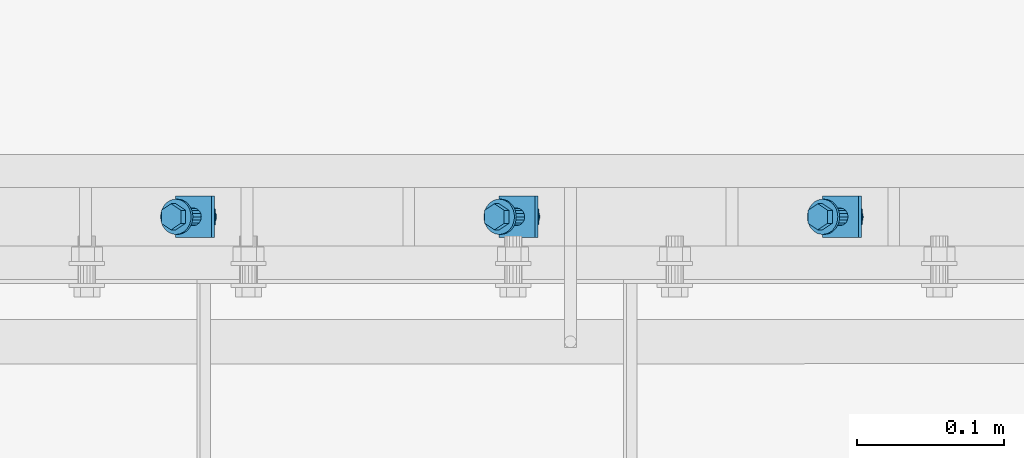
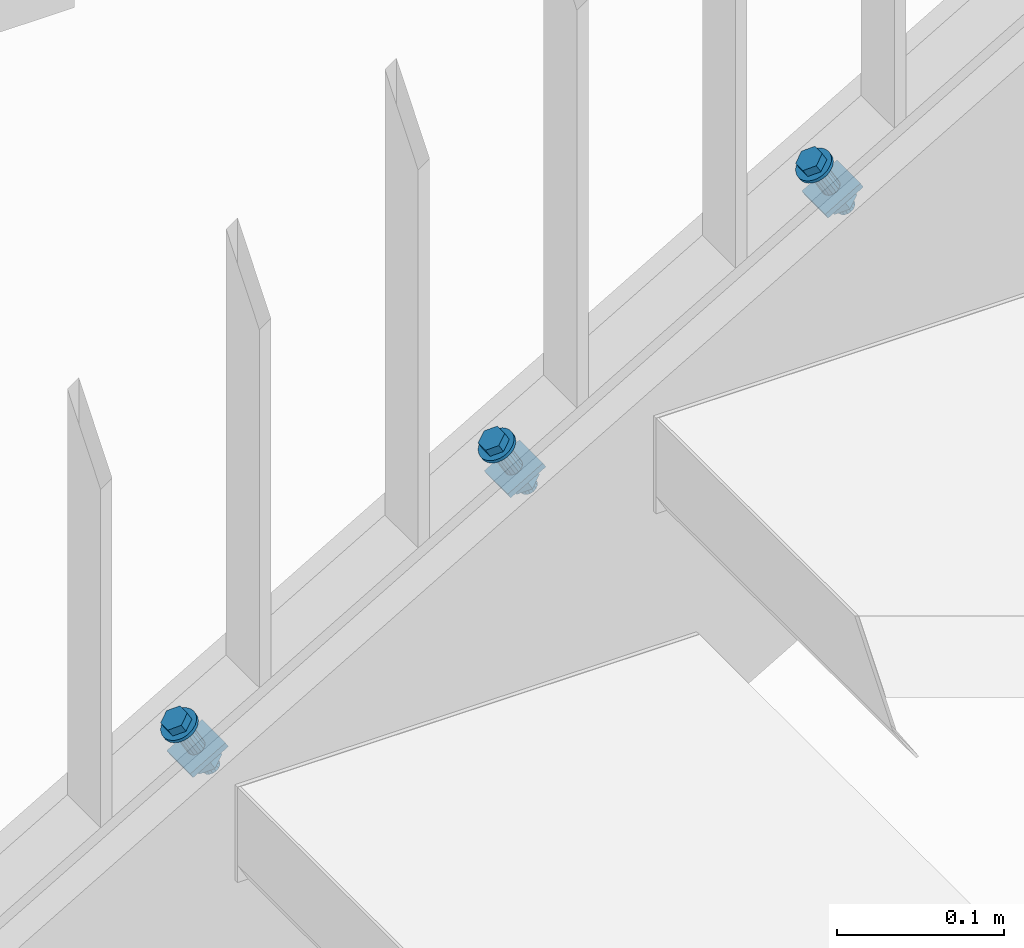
# One storey, part 82 of 145: 3 mechanical fasteners.
"""IFC2X3 building model written with IfcOpenShell, lengths in millimetres."""

from ifc_helpers import new_model, entity, si_unit, converted_unit, origin_with_axes, place, context, project, spatial, faceted_brep, element, save


model = new_model("IFC2X3")

# Units and contexts
model_context = context("Model", 3, precision=1e-09, world=origin_with_axes())
ifc_project = project(units=[si_unit("LENGTHUNIT", "METRE", prefix="MILLI"), si_unit("AREAUNIT", "SQUARE_METRE"), si_unit("VOLUMEUNIT", "CUBIC_METRE"), converted_unit("PLANEANGLEUNIT", "DEGREE", entity("IfcPlaneAngleMeasure", 0.01745329), si_unit("PLANEANGLEUNIT", "RADIAN"), dimensions=[0, 0, 0, 0, 0, 0, 0])], contexts=[model_context])

# Site, building, storey
site_placement = place(None, origin_with_axes())
site = spatial("IfcSite", under=ifc_project, at=site_placement, Name="BZ1 Grund- und Mittelschule 85716 Unterschlei?heim", CompositionType="ELEMENT")
building_placement = place(site_placement, origin_with_axes())
building = spatial("IfcBuilding", under=site, at=building_placement, Name="Struktur 1", CompositionType="ELEMENT")
storey_placement = place(building_placement, origin_with_axes())
storey = spatial("IfcBuildingStorey", under=building, at=storey_placement, Name="Default Storey", CompositionType="ELEMENT", Elevation=0.0)

# Mechanical fasteners
mechanical_fastener_1_placement = place(None, origin_with_axes())
element("IfcMechanicalFastener", 1, at=mechanical_fastener_1_placement, inside=storey, ObjectType="-", NominalDiameter=12.0, NominalLength=45.0, context=model_context, shape_type="Brep", body=[
    faceted_brep([(17800.950000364, -1877.502, 398.715250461), (17799.693272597, -1877.502, 400.87641573), (17799.892598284, -1875.160916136, 400.992324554), (17801.14932605, -1875.160916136, 398.831159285), (17800.482915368, -1872.909798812, 401.335596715), (17801.739643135, -1872.909798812, 399.174431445), (17801.441538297, -1870.835157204, 401.893040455), (17802.698266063, -1870.835157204, 399.731875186), (17802.731627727, -1869.016718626, 402.643233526), (17803.988355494, -1869.016718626, 400.482068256), (17804.303606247, -1867.524364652, 403.557346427), (17805.560334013, -1867.524364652, 401.396181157), (17806.097063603, -1866.41544561, 404.600250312), (17807.353791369, -1866.41544561, 402.439085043), (17808.043078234, -1865.732576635, 405.731866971), (17809.299806, -1865.732576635, 403.570701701), (17810.06686589, -1865.502, 406.908709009), (17811.323593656, -1865.502, 404.74754374), (17812.090653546, -1865.732576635, 408.085551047), (17813.347381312, -1865.732576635, 405.924385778), (17814.036668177, -1866.41544561, 409.217167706), (17815.293395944, -1866.41544561, 407.056002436), (17815.830125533, -1867.524364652, 410.260071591), (17817.086853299, -1867.524364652, 408.098906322), (17817.402104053, -1869.016718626, 411.174184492), (17818.658831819, -1869.016718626, 409.013019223), (17818.692193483, -1870.835157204, 411.924377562), (17819.94892125, -1870.835157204, 409.763212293), (17819.650816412, -1872.909798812, 412.481821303), (17820.907544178, -1872.909798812, 410.320656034), (17820.241133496, -1875.160916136, 412.825093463), (17821.497861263, -1875.160916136, 410.663928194), (17820.440459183, -1877.502, 412.941002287), (17821.697186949, -1877.502, 410.779837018), (17820.241133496, -1879.843083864, 412.825093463), (17821.497861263, -1879.843083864, 410.663928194), (17819.650816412, -1882.094201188, 412.481821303), (17820.907544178, -1882.094201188, 410.320656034), (17818.692193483, -1884.168842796, 411.924377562), (17819.94892125, -1884.168842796, 409.763212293), (17817.402104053, -1885.987281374, 411.174184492), (17818.658831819, -1885.987281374, 409.013019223), (17815.830125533, -1887.479635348, 410.260071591), (17817.086853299, -1887.479635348, 408.098906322), (17814.036668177, -1888.58855439, 409.217167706), (17815.293395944, -1888.58855439, 407.056002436), (17812.090653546, -1889.271423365, 408.085551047), (17813.347381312, -1889.271423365, 405.924385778), (17810.06686589, -1889.502, 406.908709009), (17811.323593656, -1889.502, 404.74754374), (17808.043078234, -1889.271423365, 405.731866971), (17809.299806, -1889.271423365, 403.570701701), (17806.097063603, -1888.58855439, 404.600250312), (17807.353791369, -1888.58855439, 402.439085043), (17804.303606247, -1887.479635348, 403.557346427), (17805.560334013, -1887.479635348, 401.396181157), (17802.731627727, -1885.987281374, 402.643233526), (17803.988355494, -1885.987281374, 400.482068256), (17801.441538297, -1884.168842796, 401.893040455), (17802.698266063, -1884.168842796, 399.731875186), (17800.482915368, -1882.094201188, 401.335596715), (17801.739643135, -1882.094201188, 399.174431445), (17799.892598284, -1879.843083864, 400.992324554), (17801.14932605, -1879.843083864, 398.831159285)], [[[0, 1, 2, 3]], [[3, 2, 4, 5]], [[5, 4, 6, 7]], [[7, 6, 8, 9]], [[9, 8, 10, 11]], [[11, 10, 12, 13]], [[13, 12, 14, 15]], [[15, 14, 16, 17]], [[17, 16, 18, 19]], [[19, 18, 20, 21]], [[21, 20, 22, 23]], [[23, 22, 24, 25]], [[25, 24, 26, 27]], [[27, 26, 28, 29]], [[29, 28, 30, 31]], [[31, 30, 32, 33]], [[33, 32, 34, 35]], [[35, 34, 36, 37]], [[37, 36, 38, 39]], [[39, 38, 40, 41]], [[41, 40, 42, 43]], [[43, 42, 44, 45]], [[45, 44, 46, 47]], [[47, 46, 48, 49]], [[49, 48, 50, 51]], [[51, 50, 52, 53]], [[53, 52, 54, 55]], [[55, 54, 56, 57]], [[57, 56, 58, 59]], [[59, 58, 60, 61]], [[61, 60, 62, 63]], [[63, 62, 1, 0]], [[2, 1, 62, 60, 58, 56, 54, 52, 50, 48, 46, 44, 42, 40, 38, 36, 34, 32, 30, 28, 26, 24, 22, 20, 18, 16, 14, 12, 10, 8, 6, 4]], [[63, 0, 3, 5, 7, 9, 11, 13, 15, 17, 19, 21, 23, 25, 27, 29, 31, 33, 35, 37, 39, 41, 43, 45, 47, 49, 51, 53, 55, 57, 59, 61]]]),
    faceted_brep([(17813.501394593, -1873.0595, 416.309317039), (17816.718617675, -1873.0595, 410.77673395), (17810.06686589, -1868.617, 406.908709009), (17806.849642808, -1868.617, 412.441292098), (17803.415114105, -1873.0595, 403.040684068), (17800.197891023, -1873.0595, 408.573267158), (17803.415114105, -1881.9445, 403.040684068), (17800.197891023, -1881.9445, 408.573267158), (17810.06686589, -1886.387, 406.908709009), (17806.849642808, -1886.387, 412.441292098), (17816.718617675, -1881.9445, 410.77673395), (17813.501394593, -1881.9445, 416.309317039)], [[[0, 1, 2, 3]], [[3, 2, 4, 5]], [[5, 4, 6, 7]], [[7, 6, 8, 9]], [[9, 8, 10, 11]], [[11, 10, 1, 0]], [[3, 5, 7, 9, 11, 0]], [[2, 1, 10, 8, 6, 4]]]),
    faceted_brep([(17817.036558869, -1877.502, 382.987332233), (17806.13679701, -1877.502, 401.7313971), (17806.531618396, -1875.205899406, 401.960987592), (17817.431380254, -1875.205899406, 383.216922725), (17807.655974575, -1873.259359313, 402.614805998), (17818.555736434, -1873.259359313, 383.87074113), (17809.338692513, -1871.958722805, 403.593314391), (17820.238454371, -1871.958722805, 384.849249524), (17811.323593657, -1871.502, 404.747543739), (17822.223355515, -1871.502, 386.003478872), (17813.3084948, -1871.958722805, 405.901773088), (17824.208256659, -1871.958722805, 387.15770822), (17814.991212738, -1873.259359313, 406.880281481), (17825.890974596, -1873.259359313, 388.136216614), (17816.115568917, -1875.205899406, 407.534099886), (17827.015330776, -1875.205899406, 388.790035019), (17816.510390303, -1877.502, 407.763690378), (17827.410152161, -1877.502, 389.019625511), (17816.115568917, -1879.798100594, 407.534099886), (17827.015330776, -1879.798100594, 388.790035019), (17814.991212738, -1881.744640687, 406.880281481), (17825.890974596, -1881.744640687, 388.136216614), (17813.3084948, -1883.045277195, 405.901773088), (17824.208256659, -1883.045277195, 387.15770822), (17811.323593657, -1883.502, 404.747543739), (17822.223355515, -1883.502, 386.003478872), (17809.338692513, -1883.045277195, 403.593314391), (17820.238454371, -1883.045277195, 384.849249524), (17807.655974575, -1881.744640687, 402.614805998), (17818.555736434, -1881.744640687, 383.87074113), (17806.531618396, -1879.798100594, 401.960987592), (17817.431380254, -1879.798100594, 383.216922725)], [[[0, 1, 2, 3]], [[3, 2, 4, 5]], [[5, 4, 6, 7]], [[7, 6, 8, 9]], [[9, 8, 10, 11]], [[11, 10, 12, 13]], [[13, 12, 14, 15]], [[15, 14, 16, 17]], [[17, 16, 18, 19]], [[19, 18, 20, 21]], [[21, 20, 22, 23]], [[23, 22, 24, 25]], [[25, 24, 26, 27]], [[27, 26, 28, 29]], [[29, 28, 30, 31]], [[31, 30, 1, 0]], [[2, 1, 30, 28, 26, 24, 22, 20, 18, 16, 14, 12, 10, 8, 6, 4]], [[31, 0, 3, 5, 7, 9, 11, 13, 15, 17, 19, 21, 23, 25, 27, 29]]]),
    faceted_brep([(17834.448752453, -1863.359864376, 393.112604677), (17836.459516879, -1863.359864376, 389.654740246), (17812.008723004, -1863.359864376, 375.436488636), (17809.997958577, -1863.359864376, 378.894353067), (17812.008723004, -1891.644135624, 375.436488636), (17809.997958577, -1891.644135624, 378.894353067), (17836.459516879, -1891.644135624, 389.654740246), (17834.448752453, -1891.644135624, 393.112604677)], [[[0, 1, 2, 3]], [[3, 2, 4, 5]], [[5, 4, 6, 7]], [[7, 6, 1, 0]], [[3, 5, 7, 0]], [[2, 1, 6, 4]]]),
    faceted_brep([(17832.132373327, -1872.227, 387.138485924), (17837.159284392, -1872.227, 378.493824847), (17829.261031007, -1866.952, 373.900953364), (17824.234119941, -1866.952, 382.545614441), (17821.362777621, -1872.227, 369.308081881), (17816.335866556, -1872.227, 377.952742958), (17821.362777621, -1882.777, 369.308081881), (17816.335866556, -1882.777, 377.952742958), (17829.261031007, -1888.052, 373.900953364), (17824.234119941, -1888.052, 382.545614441), (17837.159284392, -1882.777, 378.493824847), (17832.132373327, -1882.777, 387.138485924)], [[[0, 1, 2, 3]], [[3, 2, 4, 5]], [[5, 4, 6, 7]], [[7, 6, 8, 9]], [[9, 8, 10, 11]], [[11, 10, 1, 0]], [[3, 5, 7, 9, 11, 0]], [[2, 1, 10, 8, 6, 4]]]),
    faceted_brep([(17827.501169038, -1877.502, 364.991587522), (17824.07423436, -1877.502, 370.884806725), (17824.469055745, -1875.205899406, 371.114397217), (17827.895990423, -1875.205899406, 365.221178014), (17825.593411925, -1873.259359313, 371.768215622), (17829.020346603, -1873.259359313, 365.874996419), (17827.276129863, -1871.958722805, 372.746724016), (17830.70306454, -1871.958722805, 366.853504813), (17829.261031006, -1871.502, 373.900953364), (17832.687965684, -1871.502, 368.007734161), (17831.24593215, -1871.958722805, 375.055182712), (17834.672866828, -1871.958722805, 369.161963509), (17832.928650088, -1873.259359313, 376.033691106), (17836.355584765, -1873.259359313, 370.140471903), (17834.053006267, -1875.205899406, 376.687509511), (17837.479940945, -1875.205899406, 370.794290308), (17834.447827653, -1877.502, 376.917100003), (17837.87476233, -1877.502, 371.0238808), (17834.053006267, -1879.798100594, 376.687509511), (17837.479940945, -1879.798100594, 370.794290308), (17832.928650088, -1881.744640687, 376.033691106), (17836.355584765, -1881.744640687, 370.140471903), (17831.24593215, -1883.045277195, 375.055182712), (17834.672866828, -1883.045277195, 369.161963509), (17829.261031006, -1883.502, 373.900953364), (17832.687965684, -1883.502, 368.007734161), (17827.276129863, -1883.045277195, 372.746724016), (17830.70306454, -1883.045277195, 366.853504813), (17825.593411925, -1881.744640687, 371.768215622), (17829.020346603, -1881.744640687, 365.874996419), (17824.469055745, -1879.798100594, 371.114397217), (17827.895990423, -1879.798100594, 365.221178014)], [[[0, 1, 2, 3]], [[3, 2, 4, 5]], [[5, 4, 6, 7]], [[7, 6, 8, 9]], [[9, 8, 10, 11]], [[11, 10, 12, 13]], [[13, 12, 14, 15]], [[15, 14, 16, 17]], [[17, 16, 18, 19]], [[19, 18, 20, 21]], [[21, 20, 22, 23]], [[23, 22, 24, 25]], [[25, 24, 26, 27]], [[27, 26, 28, 29]], [[29, 28, 30, 31]], [[31, 30, 1, 0]], [[2, 1, 30, 28, 26, 24, 22, 20, 18, 16, 14, 12, 10, 8, 6, 4]], [[31, 0, 3, 5, 7, 9, 11, 13, 15, 17, 19, 21, 23, 25, 27, 29]]]),
])
mechanical_fastener_2_placement = place(None, origin_with_axes())
element("IfcMechanicalFastener", 2, at=mechanical_fastener_2_placement, inside=storey, ObjectType="-", NominalDiameter=12.0, NominalLength=45.0, context=model_context, shape_type="Brep", body=[
    faceted_brep([(18020.950503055, -1877.502, 526.646577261), (18019.693775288, -1877.502, 528.80774253), (18019.893100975, -1875.160916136, 528.923651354), (18021.149828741, -1875.160916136, 526.762486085), (18020.483418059, -1872.909798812, 529.266923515), (18021.740145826, -1872.909798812, 527.105758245), (18021.442040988, -1870.835157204, 529.824367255), (18022.698768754, -1870.835157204, 527.663201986), (18022.732130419, -1869.016718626, 530.574560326), (18023.988858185, -1869.016718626, 528.413395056), (18024.304108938, -1867.524364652, 531.488673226), (18025.560836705, -1867.524364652, 529.327507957), (18026.097566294, -1866.41544561, 532.531577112), (18027.35429406, -1866.41544561, 530.370411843), (18028.043580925, -1865.732576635, 533.663193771), (18029.300308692, -1865.732576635, 531.502028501), (18030.067368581, -1865.502, 534.840035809), (18031.324096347, -1865.502, 532.678870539), (18032.091156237, -1865.732576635, 536.016877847), (18033.347884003, -1865.732576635, 533.855712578), (18034.037170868, -1866.41544561, 537.148494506), (18035.293898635, -1866.41544561, 534.987329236), (18035.830628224, -1867.524364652, 538.191398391), (18037.08735599, -1867.524364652, 536.030233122), (18037.402606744, -1869.016718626, 539.105511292), (18038.65933451, -1869.016718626, 536.944346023), (18038.692696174, -1870.835157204, 539.855704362), (18039.949423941, -1870.835157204, 537.694539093), (18039.651319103, -1872.909798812, 540.413148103), (18040.908046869, -1872.909798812, 538.251982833), (18040.241636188, -1875.160916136, 540.756420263), (18041.498363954, -1875.160916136, 538.595254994), (18040.440961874, -1877.502, 540.872329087), (18041.69768964, -1877.502, 538.711163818), (18040.241636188, -1879.843083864, 540.756420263), (18041.498363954, -1879.843083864, 538.595254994), (18039.651319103, -1882.094201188, 540.413148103), (18040.908046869, -1882.094201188, 538.251982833), (18038.692696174, -1884.168842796, 539.855704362), (18039.949423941, -1884.168842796, 537.694539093), (18037.402606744, -1885.987281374, 539.105511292), (18038.65933451, -1885.987281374, 536.944346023), (18035.830628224, -1887.479635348, 538.191398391), (18037.08735599, -1887.479635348, 536.030233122), (18034.037170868, -1888.58855439, 537.148494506), (18035.293898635, -1888.58855439, 534.987329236), (18032.091156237, -1889.271423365, 536.016877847), (18033.347884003, -1889.271423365, 533.855712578), (18030.067368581, -1889.502, 534.840035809), (18031.324096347, -1889.502, 532.678870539), (18028.043580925, -1889.271423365, 533.663193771), (18029.300308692, -1889.271423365, 531.502028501), (18026.097566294, -1888.58855439, 532.531577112), (18027.35429406, -1888.58855439, 530.370411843), (18024.304108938, -1887.479635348, 531.488673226), (18025.560836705, -1887.479635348, 529.327507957), (18022.732130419, -1885.987281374, 530.574560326), (18023.988858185, -1885.987281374, 528.413395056), (18021.442040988, -1884.168842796, 529.824367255), (18022.698768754, -1884.168842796, 527.663201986), (18020.483418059, -1882.094201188, 529.266923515), (18021.740145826, -1882.094201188, 527.105758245), (18019.893100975, -1879.843083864, 528.923651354), (18021.149828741, -1879.843083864, 526.762486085)], [[[0, 1, 2, 3]], [[3, 2, 4, 5]], [[5, 4, 6, 7]], [[7, 6, 8, 9]], [[9, 8, 10, 11]], [[11, 10, 12, 13]], [[13, 12, 14, 15]], [[15, 14, 16, 17]], [[17, 16, 18, 19]], [[19, 18, 20, 21]], [[21, 20, 22, 23]], [[23, 22, 24, 25]], [[25, 24, 26, 27]], [[27, 26, 28, 29]], [[29, 28, 30, 31]], [[31, 30, 32, 33]], [[33, 32, 34, 35]], [[35, 34, 36, 37]], [[37, 36, 38, 39]], [[39, 38, 40, 41]], [[41, 40, 42, 43]], [[43, 42, 44, 45]], [[45, 44, 46, 47]], [[47, 46, 48, 49]], [[49, 48, 50, 51]], [[51, 50, 52, 53]], [[53, 52, 54, 55]], [[55, 54, 56, 57]], [[57, 56, 58, 59]], [[59, 58, 60, 61]], [[61, 60, 62, 63]], [[63, 62, 1, 0]], [[2, 1, 62, 60, 58, 56, 54, 52, 50, 48, 46, 44, 42, 40, 38, 36, 34, 32, 30, 28, 26, 24, 22, 20, 18, 16, 14, 12, 10, 8, 6, 4]], [[63, 0, 3, 5, 7, 9, 11, 13, 15, 17, 19, 21, 23, 25, 27, 29, 31, 33, 35, 37, 39, 41, 43, 45, 47, 49, 51, 53, 55, 57, 59, 61]]]),
    faceted_brep([(18033.501897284, -1873.0595, 544.240643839), (18036.719120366, -1873.0595, 538.70806075), (18030.067368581, -1868.617, 534.840035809), (18026.850145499, -1868.617, 540.372618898), (18023.415616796, -1873.0595, 530.972010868), (18020.198393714, -1873.0595, 536.504593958), (18023.415616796, -1881.9445, 530.972010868), (18020.198393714, -1881.9445, 536.504593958), (18030.067368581, -1886.387, 534.840035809), (18026.850145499, -1886.387, 540.372618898), (18036.719120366, -1881.9445, 538.70806075), (18033.501897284, -1881.9445, 544.240643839)], [[[0, 1, 2, 3]], [[3, 2, 4, 5]], [[5, 4, 6, 7]], [[7, 6, 8, 9]], [[9, 8, 10, 11]], [[11, 10, 1, 0]], [[3, 5, 7, 9, 11, 0]], [[2, 1, 10, 8, 6, 4]]]),
    faceted_brep([(18037.03706156, -1877.502, 510.918659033), (18026.137299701, -1877.502, 529.6627239), (18026.532121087, -1875.205899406, 529.892314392), (18037.431882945, -1875.205899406, 511.148249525), (18027.656477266, -1873.259359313, 530.546132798), (18038.556239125, -1873.259359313, 511.80206793), (18029.339195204, -1871.958722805, 531.524641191), (18040.238957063, -1871.958722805, 512.780576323), (18031.324096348, -1871.502, 532.678870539), (18042.223858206, -1871.502, 513.934805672), (18033.308997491, -1871.958722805, 533.833099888), (18044.20875935, -1871.958722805, 515.08903502), (18034.991715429, -1873.259359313, 534.811608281), (18045.891477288, -1873.259359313, 516.067543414), (18036.116071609, -1875.205899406, 535.465426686), (18047.015833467, -1875.205899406, 516.721361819), (18036.510892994, -1877.502, 535.695017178), (18047.410654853, -1877.502, 516.950952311), (18036.116071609, -1879.798100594, 535.465426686), (18047.015833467, -1879.798100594, 516.721361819), (18034.991715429, -1881.744640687, 534.811608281), (18045.891477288, -1881.744640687, 516.067543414), (18033.308997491, -1883.045277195, 533.833099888), (18044.20875935, -1883.045277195, 515.08903502), (18031.324096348, -1883.502, 532.678870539), (18042.223858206, -1883.502, 513.934805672), (18029.339195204, -1883.045277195, 531.524641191), (18040.238957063, -1883.045277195, 512.780576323), (18027.656477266, -1881.744640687, 530.546132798), (18038.556239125, -1881.744640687, 511.80206793), (18026.532121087, -1879.798100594, 529.892314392), (18037.431882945, -1879.798100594, 511.148249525)], [[[0, 1, 2, 3]], [[3, 2, 4, 5]], [[5, 4, 6, 7]], [[7, 6, 8, 9]], [[9, 8, 10, 11]], [[11, 10, 12, 13]], [[13, 12, 14, 15]], [[15, 14, 16, 17]], [[17, 16, 18, 19]], [[19, 18, 20, 21]], [[21, 20, 22, 23]], [[23, 22, 24, 25]], [[25, 24, 26, 27]], [[27, 26, 28, 29]], [[29, 28, 30, 31]], [[31, 30, 1, 0]], [[2, 1, 30, 28, 26, 24, 22, 20, 18, 16, 14, 12, 10, 8, 6, 4]], [[31, 0, 3, 5, 7, 9, 11, 13, 15, 17, 19, 21, 23, 25, 27, 29]]]),
    faceted_brep([(18054.449255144, -1863.359864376, 521.043931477), (18056.46001957, -1863.359864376, 517.586067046), (18032.009225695, -1863.359864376, 503.367815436), (18029.998461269, -1863.359864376, 506.825679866), (18032.009225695, -1891.644135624, 503.367815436), (18029.998461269, -1891.644135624, 506.825679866), (18056.46001957, -1891.644135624, 517.586067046), (18054.449255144, -1891.644135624, 521.043931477)], [[[0, 1, 2, 3]], [[3, 2, 4, 5]], [[5, 4, 6, 7]], [[7, 6, 1, 0]], [[3, 5, 7, 0]], [[2, 1, 6, 4]]]),
    faceted_brep([(18052.132876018, -1872.227, 515.069812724), (18057.159787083, -1872.227, 506.425151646), (18049.261533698, -1866.952, 501.832280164), (18044.234622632, -1866.952, 510.476941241), (18041.363280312, -1872.227, 497.239408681), (18036.336369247, -1872.227, 505.884069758), (18041.363280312, -1882.777, 497.239408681), (18036.336369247, -1882.777, 505.884069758), (18049.261533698, -1888.052, 501.832280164), (18044.234622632, -1888.052, 510.476941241), (18057.159787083, -1882.777, 506.425151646), (18052.132876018, -1882.777, 515.069812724)], [[[0, 1, 2, 3]], [[3, 2, 4, 5]], [[5, 4, 6, 7]], [[7, 6, 8, 9]], [[9, 8, 10, 11]], [[11, 10, 1, 0]], [[3, 5, 7, 9, 11, 0]], [[2, 1, 10, 8, 6, 4]]]),
    faceted_brep([(18047.501671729, -1877.502, 492.922914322), (18044.074737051, -1877.502, 498.816133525), (18044.469558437, -1875.205899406, 499.045724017), (18047.896493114, -1875.205899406, 493.152504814), (18045.593914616, -1873.259359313, 499.699542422), (18049.020849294, -1873.259359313, 493.806323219), (18047.276632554, -1871.958722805, 500.678050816), (18050.703567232, -1871.958722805, 494.784831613), (18049.261533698, -1871.502, 501.832280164), (18052.688468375, -1871.502, 495.939060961), (18051.246434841, -1871.958722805, 502.986509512), (18054.673369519, -1871.958722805, 497.093290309), (18052.929152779, -1873.259359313, 503.965017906), (18056.356087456, -1873.259359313, 498.071798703), (18054.053508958, -1875.205899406, 504.618836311), (18057.480443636, -1875.205899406, 498.725617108), (18054.448330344, -1877.502, 504.848426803), (18057.875265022, -1877.502, 498.9552076), (18054.053508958, -1879.798100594, 504.618836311), (18057.480443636, -1879.798100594, 498.725617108), (18052.929152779, -1881.744640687, 503.965017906), (18056.356087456, -1881.744640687, 498.071798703), (18051.246434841, -1883.045277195, 502.986509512), (18054.673369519, -1883.045277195, 497.093290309), (18049.261533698, -1883.502, 501.832280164), (18052.688468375, -1883.502, 495.939060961), (18047.276632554, -1883.045277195, 500.678050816), (18050.703567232, -1883.045277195, 494.784831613), (18045.593914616, -1881.744640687, 499.699542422), (18049.020849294, -1881.744640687, 493.806323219), (18044.469558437, -1879.798100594, 499.045724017), (18047.896493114, -1879.798100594, 493.152504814)], [[[0, 1, 2, 3]], [[3, 2, 4, 5]], [[5, 4, 6, 7]], [[7, 6, 8, 9]], [[9, 8, 10, 11]], [[11, 10, 12, 13]], [[13, 12, 14, 15]], [[15, 14, 16, 17]], [[17, 16, 18, 19]], [[19, 18, 20, 21]], [[21, 20, 22, 23]], [[23, 22, 24, 25]], [[25, 24, 26, 27]], [[27, 26, 28, 29]], [[29, 28, 30, 31]], [[31, 30, 1, 0]], [[2, 1, 30, 28, 26, 24, 22, 20, 18, 16, 14, 12, 10, 8, 6, 4]], [[31, 0, 3, 5, 7, 9, 11, 13, 15, 17, 19, 21, 23, 25, 27, 29]]]),
])
mechanical_fastener_3_placement = place(None, origin_with_axes())
element("IfcMechanicalFastener", 3, at=mechanical_fastener_3_placement, inside=storey, ObjectType="-", NominalDiameter=12.0, NominalLength=45.0, context=model_context, shape_type="Brep", body=[
    faceted_brep([(18240.950000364, -1877.502, 654.577319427), (18239.693272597, -1877.502, 656.738484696), (18239.892598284, -1875.160916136, 656.85439352), (18241.14932605, -1875.160916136, 654.69322825), (18240.482915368, -1872.909798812, 657.19766568), (18241.739643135, -1872.909798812, 655.036500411), (18241.441538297, -1870.835157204, 657.755109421), (18242.698266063, -1870.835157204, 655.593944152), (18242.731627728, -1869.016718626, 658.505302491), (18243.988355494, -1869.016718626, 656.344137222), (18244.303606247, -1867.524364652, 659.419415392), (18245.560334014, -1867.524364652, 657.258250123), (18246.097063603, -1866.41544561, 660.462319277), (18247.353791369, -1866.41544561, 658.301154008), (18248.043078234, -1865.732576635, 661.593935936), (18249.299806, -1865.732576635, 659.432770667), (18250.06686589, -1865.502, 662.770777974), (18251.323593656, -1865.502, 660.609612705), (18252.090653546, -1865.732576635, 663.947620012), (18253.347381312, -1865.732576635, 661.786454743), (18254.036668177, -1866.41544561, 665.079236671), (18255.293395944, -1866.41544561, 662.918071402), (18255.830125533, -1867.524364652, 666.122140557), (18257.086853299, -1867.524364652, 663.960975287), (18257.402104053, -1869.016718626, 667.036253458), (18258.658831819, -1869.016718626, 664.875088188), (18258.692193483, -1870.835157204, 667.786446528), (18259.94892125, -1870.835157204, 665.625281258), (18259.650816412, -1872.909798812, 668.343890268), (18260.907544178, -1872.909798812, 666.182724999), (18260.241133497, -1875.160916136, 668.687162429), (18261.497861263, -1875.160916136, 666.525997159), (18260.440459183, -1877.502, 668.803071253), (18261.697186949, -1877.502, 666.641905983), (18260.241133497, -1879.843083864, 668.687162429), (18261.497861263, -1879.843083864, 666.525997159), (18259.650816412, -1882.094201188, 668.343890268), (18260.907544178, -1882.094201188, 666.182724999), (18258.692193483, -1884.168842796, 667.786446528), (18259.94892125, -1884.168842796, 665.625281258), (18257.402104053, -1885.987281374, 667.036253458), (18258.658831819, -1885.987281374, 664.875088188), (18255.830125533, -1887.479635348, 666.122140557), (18257.086853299, -1887.479635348, 663.960975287), (18254.036668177, -1888.58855439, 665.079236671), (18255.293395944, -1888.58855439, 662.918071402), (18252.090653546, -1889.271423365, 663.947620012), (18253.347381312, -1889.271423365, 661.786454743), (18250.06686589, -1889.502, 662.770777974), (18251.323593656, -1889.502, 660.609612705), (18248.043078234, -1889.271423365, 661.593935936), (18249.299806, -1889.271423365, 659.432770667), (18246.097063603, -1888.58855439, 660.462319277), (18247.353791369, -1888.58855439, 658.301154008), (18244.303606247, -1887.479635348, 659.419415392), (18245.560334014, -1887.479635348, 657.258250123), (18242.731627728, -1885.987281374, 658.505302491), (18243.988355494, -1885.987281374, 656.344137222), (18241.441538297, -1884.168842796, 657.755109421), (18242.698266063, -1884.168842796, 655.593944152), (18240.482915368, -1882.094201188, 657.19766568), (18241.739643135, -1882.094201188, 655.036500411), (18239.892598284, -1879.843083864, 656.85439352), (18241.14932605, -1879.843083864, 654.69322825)], [[[0, 1, 2, 3]], [[3, 2, 4, 5]], [[5, 4, 6, 7]], [[7, 6, 8, 9]], [[9, 8, 10, 11]], [[11, 10, 12, 13]], [[13, 12, 14, 15]], [[15, 14, 16, 17]], [[17, 16, 18, 19]], [[19, 18, 20, 21]], [[21, 20, 22, 23]], [[23, 22, 24, 25]], [[25, 24, 26, 27]], [[27, 26, 28, 29]], [[29, 28, 30, 31]], [[31, 30, 32, 33]], [[33, 32, 34, 35]], [[35, 34, 36, 37]], [[37, 36, 38, 39]], [[39, 38, 40, 41]], [[41, 40, 42, 43]], [[43, 42, 44, 45]], [[45, 44, 46, 47]], [[47, 46, 48, 49]], [[49, 48, 50, 51]], [[51, 50, 52, 53]], [[53, 52, 54, 55]], [[55, 54, 56, 57]], [[57, 56, 58, 59]], [[59, 58, 60, 61]], [[61, 60, 62, 63]], [[63, 62, 1, 0]], [[2, 1, 62, 60, 58, 56, 54, 52, 50, 48, 46, 44, 42, 40, 38, 36, 34, 32, 30, 28, 26, 24, 22, 20, 18, 16, 14, 12, 10, 8, 6, 4]], [[63, 0, 3, 5, 7, 9, 11, 13, 15, 17, 19, 21, 23, 25, 27, 29, 31, 33, 35, 37, 39, 41, 43, 45, 47, 49, 51, 53, 55, 57, 59, 61]]]),
    faceted_brep([(18253.501394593, -1873.0595, 672.171386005), (18256.718617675, -1873.0595, 666.638802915), (18250.06686589, -1868.617, 662.770777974), (18246.849642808, -1868.617, 668.303361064), (18243.415114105, -1873.0595, 658.902753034), (18240.197891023, -1873.0595, 664.435336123), (18243.415114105, -1881.9445, 658.902753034), (18240.197891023, -1881.9445, 664.435336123), (18250.06686589, -1886.387, 662.770777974), (18246.849642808, -1886.387, 668.303361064), (18256.718617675, -1881.9445, 666.638802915), (18253.501394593, -1881.9445, 672.171386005)], [[[0, 1, 2, 3]], [[3, 2, 4, 5]], [[5, 4, 6, 7]], [[7, 6, 8, 9]], [[9, 8, 10, 11]], [[11, 10, 1, 0]], [[3, 5, 7, 9, 11, 0]], [[2, 1, 10, 8, 6, 4]]]),
    faceted_brep([(18257.036558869, -1877.502, 638.849401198), (18246.13679701, -1877.502, 657.593466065), (18246.531618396, -1875.205899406, 657.823056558), (18257.431380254, -1875.205899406, 639.07899169), (18247.655974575, -1873.259359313, 658.476874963), (18258.555736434, -1873.259359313, 639.732810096), (18249.338692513, -1871.958722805, 659.455383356), (18260.238454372, -1871.958722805, 640.711318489), (18251.323593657, -1871.502, 660.609612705), (18262.223355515, -1871.502, 641.865547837), (18253.3084948, -1871.958722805, 661.763842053), (18264.208256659, -1871.958722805, 643.019777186), (18254.991212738, -1873.259359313, 662.742350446), (18265.890974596, -1873.259359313, 643.998285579), (18256.115568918, -1875.205899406, 663.396168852), (18267.015330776, -1875.205899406, 644.652103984), (18256.510390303, -1877.502, 663.625759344), (18267.410152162, -1877.502, 644.881694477), (18256.115568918, -1879.798100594, 663.396168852), (18267.015330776, -1879.798100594, 644.652103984), (18254.991212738, -1881.744640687, 662.742350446), (18265.890974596, -1881.744640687, 643.998285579), (18253.3084948, -1883.045277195, 661.763842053), (18264.208256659, -1883.045277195, 643.019777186), (18251.323593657, -1883.502, 660.609612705), (18262.223355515, -1883.502, 641.865547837), (18249.338692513, -1883.045277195, 659.455383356), (18260.238454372, -1883.045277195, 640.711318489), (18247.655974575, -1881.744640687, 658.476874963), (18258.555736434, -1881.744640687, 639.732810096), (18246.531618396, -1879.798100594, 657.823056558), (18257.431380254, -1879.798100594, 639.07899169)], [[[0, 1, 2, 3]], [[3, 2, 4, 5]], [[5, 4, 6, 7]], [[7, 6, 8, 9]], [[9, 8, 10, 11]], [[11, 10, 12, 13]], [[13, 12, 14, 15]], [[15, 14, 16, 17]], [[17, 16, 18, 19]], [[19, 18, 20, 21]], [[21, 20, 22, 23]], [[23, 22, 24, 25]], [[25, 24, 26, 27]], [[27, 26, 28, 29]], [[29, 28, 30, 31]], [[31, 30, 1, 0]], [[2, 1, 30, 28, 26, 24, 22, 20, 18, 16, 14, 12, 10, 8, 6, 4]], [[31, 0, 3, 5, 7, 9, 11, 13, 15, 17, 19, 21, 23, 25, 27, 29]]]),
    faceted_brep([(18274.448752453, -1863.359864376, 648.974673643), (18276.459516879, -1863.359864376, 645.516809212), (18252.008723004, -1863.359864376, 631.298557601), (18249.997958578, -1863.359864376, 634.756422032), (18252.008723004, -1891.644135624, 631.298557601), (18249.997958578, -1891.644135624, 634.756422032), (18276.459516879, -1891.644135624, 645.516809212), (18274.448752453, -1891.644135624, 648.974673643)], [[[0, 1, 2, 3]], [[3, 2, 4, 5]], [[5, 4, 6, 7]], [[7, 6, 1, 0]], [[3, 5, 7, 0]], [[2, 1, 6, 4]]]),
    faceted_brep([(18272.132373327, -1872.227, 643.000554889), (18277.159284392, -1872.227, 634.355893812), (18269.261031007, -1866.952, 629.763022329), (18264.234119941, -1866.952, 638.407683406), (18261.362777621, -1872.227, 625.170150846), (18256.335866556, -1872.227, 633.814811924), (18261.362777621, -1882.777, 625.170150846), (18256.335866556, -1882.777, 633.814811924), (18269.261031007, -1888.052, 629.763022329), (18264.234119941, -1888.052, 638.407683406), (18277.159284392, -1882.777, 634.355893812), (18272.132373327, -1882.777, 643.000554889)], [[[0, 1, 2, 3]], [[3, 2, 4, 5]], [[5, 4, 6, 7]], [[7, 6, 8, 9]], [[9, 8, 10, 11]], [[11, 10, 1, 0]], [[3, 5, 7, 9, 11, 0]], [[2, 1, 10, 8, 6, 4]]]),
    faceted_brep([(18267.501169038, -1877.502, 620.853656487), (18264.07423436, -1877.502, 626.74687569), (18264.469055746, -1875.205899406, 626.976466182), (18267.895990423, -1875.205899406, 621.083246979), (18265.593411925, -1873.259359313, 627.630284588), (18269.020346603, -1873.259359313, 621.737065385), (18267.276129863, -1871.958722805, 628.608792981), (18270.70306454, -1871.958722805, 622.715573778), (18269.261031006, -1871.502, 629.763022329), (18272.687965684, -1871.502, 623.869803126), (18271.24593215, -1871.958722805, 630.917251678), (18274.672866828, -1871.958722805, 625.024032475), (18272.928650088, -1873.259359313, 631.895760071), (18276.355584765, -1873.259359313, 626.002540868), (18274.053006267, -1875.205899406, 632.549578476), (18277.479940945, -1875.205899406, 626.656359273), (18274.447827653, -1877.502, 632.779168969), (18277.87476233, -1877.502, 626.885949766), (18274.053006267, -1879.798100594, 632.549578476), (18277.479940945, -1879.798100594, 626.656359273), (18272.928650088, -1881.744640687, 631.895760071), (18276.355584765, -1881.744640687, 626.002540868), (18271.24593215, -1883.045277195, 630.917251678), (18274.672866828, -1883.045277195, 625.024032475), (18269.261031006, -1883.502, 629.763022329), (18272.687965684, -1883.502, 623.869803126), (18267.276129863, -1883.045277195, 628.608792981), (18270.70306454, -1883.045277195, 622.715573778), (18265.593411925, -1881.744640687, 627.630284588), (18269.020346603, -1881.744640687, 621.737065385), (18264.469055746, -1879.798100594, 626.976466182), (18267.895990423, -1879.798100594, 621.083246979)], [[[0, 1, 2, 3]], [[3, 2, 4, 5]], [[5, 4, 6, 7]], [[7, 6, 8, 9]], [[9, 8, 10, 11]], [[11, 10, 12, 13]], [[13, 12, 14, 15]], [[15, 14, 16, 17]], [[17, 16, 18, 19]], [[19, 18, 20, 21]], [[21, 20, 22, 23]], [[23, 22, 24, 25]], [[25, 24, 26, 27]], [[27, 26, 28, 29]], [[29, 28, 30, 31]], [[31, 30, 1, 0]], [[2, 1, 30, 28, 26, 24, 22, 20, 18, 16, 14, 12, 10, 8, 6, 4]], [[31, 0, 3, 5, 7, 9, 11, 13, 15, 17, 19, 21, 23, 25, 27, 29]]]),
])

save(model, "model.ifc")
